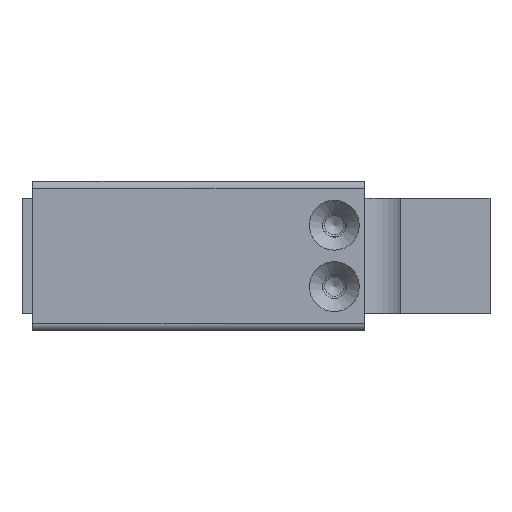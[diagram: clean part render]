
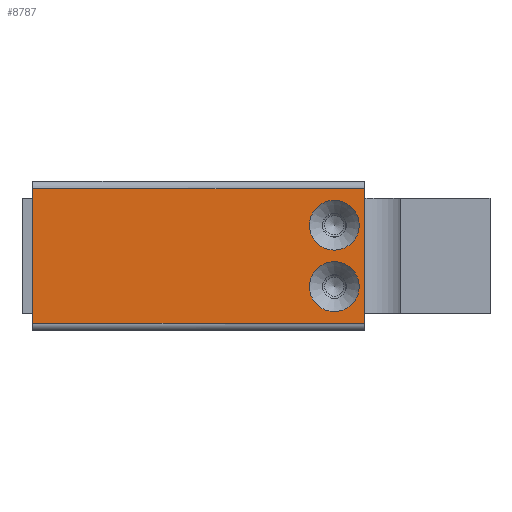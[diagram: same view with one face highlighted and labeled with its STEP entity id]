
A CAD part, left-side view. The second image highlights one B-rep face of the part: STEP entity #8787.
In plain terms, the highlighted planar face has unit normal (-1, 0, 0) as drawn and (0, 0, 1) by its records, which use the part's own axes.
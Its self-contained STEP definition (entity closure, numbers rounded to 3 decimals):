
#542=FACE_BOUND('',#1612,.T.);
#543=FACE_BOUND('',#1613,.T.);
#700=PLANE('',#9534);
#1025=FACE_OUTER_BOUND('',#1611,.T.);
#1611=EDGE_LOOP('',(#6436,#6437,#6438,#6439));
#1612=EDGE_LOOP('',(#6440));
#1613=EDGE_LOOP('',(#6441));
#2300=LINE('',#12922,#2922);
#2303=LINE('',#12931,#2925);
#2319=LINE('',#12965,#2941);
#2320=LINE('',#12966,#2942);
#2922=VECTOR('',#10621,1000.);
#2925=VECTOR('',#10628,1000.);
#2941=VECTOR('',#10656,1000.);
#2942=VECTOR('',#10657,1000.);
#3581=CIRCLE('',#9518,3.25);
#3583=CIRCLE('',#9521,3.25);
#3970=VERTEX_POINT('',#12893);
#3972=VERTEX_POINT('',#12899);
#3979=VERTEX_POINT('',#12919);
#3980=VERTEX_POINT('',#12921);
#3983=VERTEX_POINT('',#12929);
#3984=VERTEX_POINT('',#12930);
#4897=EDGE_CURVE('',#3970,#3970,#3581,.T.);
#4900=EDGE_CURVE('',#3972,#3972,#3583,.T.);
#4909=EDGE_CURVE('',#3979,#3980,#2300,.T.);
#4913=EDGE_CURVE('',#3983,#3984,#2303,.T.);
#4931=EDGE_CURVE('',#3979,#3983,#2319,.T.);
#4932=EDGE_CURVE('',#3984,#3980,#2320,.T.);
#6436=ORIENTED_EDGE('',*,*,#4909,.F.);
#6437=ORIENTED_EDGE('',*,*,#4931,.T.);
#6438=ORIENTED_EDGE('',*,*,#4913,.T.);
#6439=ORIENTED_EDGE('',*,*,#4932,.T.);
#6440=ORIENTED_EDGE('',*,*,#4900,.T.);
#6441=ORIENTED_EDGE('',*,*,#4897,.T.);
#8787=ADVANCED_FACE('',(#1025,#542,#543),#700,.F.);
#9518=AXIS2_PLACEMENT_3D('',#12895,#10595,#10596);
#9521=AXIS2_PLACEMENT_3D('',#12901,#10602,#10603);
#9534=AXIS2_PLACEMENT_3D('',#12964,#10654,#10655);
#10595=DIRECTION('center_axis',(0.,0.,-1.));
#10596=DIRECTION('ref_axis',(-1.,0.,0.));
#10602=DIRECTION('center_axis',(0.,0.,-1.));
#10603=DIRECTION('ref_axis',(-1.,0.,0.));
#10621=DIRECTION('',(1.,0.,0.));
#10628=DIRECTION('',(1.,0.,0.));
#10654=DIRECTION('center_axis',(0.,0.,-1.));
#10655=DIRECTION('ref_axis',(-1.,0.,0.));
#10656=DIRECTION('',(0.,-1.,0.));
#10657=DIRECTION('',(0.,1.,0.));
#12893=CARTESIAN_POINT('',(-7.25,3.9,26.675));
#12895=CARTESIAN_POINT('Origin',(-4.,3.9,26.675));
#12899=CARTESIAN_POINT('',(0.75,3.9,26.675));
#12901=CARTESIAN_POINT('Origin',(4.,3.9,26.675));
#12919=CARTESIAN_POINT('',(-8.76,43.2,26.675));
#12921=CARTESIAN_POINT('',(8.76,43.2,26.675));
#12922=CARTESIAN_POINT('',(-9.76,43.2,26.675));
#12929=CARTESIAN_POINT('',(-8.76,0.,26.675));
#12930=CARTESIAN_POINT('',(8.76,0.,26.675));
#12931=CARTESIAN_POINT('',(-9.76,0.,26.675));
#12964=CARTESIAN_POINT('Origin',(-9.76,43.2,26.675));
#12965=CARTESIAN_POINT('',(-8.76,43.2,26.675));
#12966=CARTESIAN_POINT('',(8.76,43.2,26.675));
